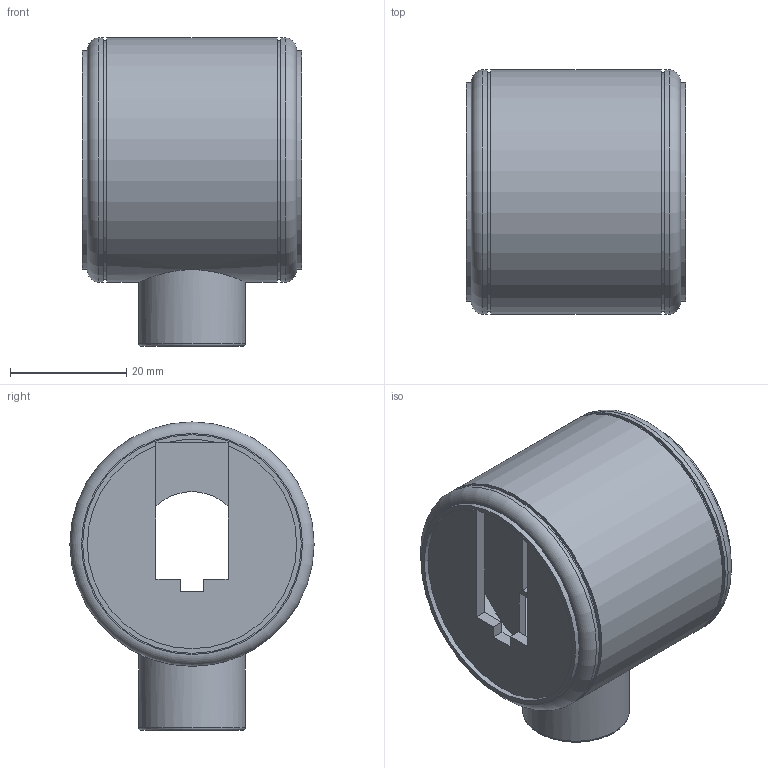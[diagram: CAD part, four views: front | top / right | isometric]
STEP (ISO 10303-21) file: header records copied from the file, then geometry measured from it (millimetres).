
FILE_DESCRIPTION(('Open CASCADE Model'),'2;1');
FILE_NAME('Open CASCADE Shape Model','2026-11-01T16:32:09',('Author'),( 'Open CASCADE'),'Open CASCADE STEP processor 8.0','build123d', 'Unknown');
FILE_SCHEMA(('AUTOMOTIVE_DESIGN { 1 0 10303 214 1 1 1 1 }'));
Length unit declared in the file: millimetre
Products named in the file (1): SOLID
Bounding box: 37.8 x 42 x 53 mm (x, y, z)
Volume: 14950.1 mm3; surface area: 16181.3 mm2
Topology: 1 solids, 1 shells, 86 faces, 215 edges, 141 vertices
Faces by surface type: plane 59, cylinder 24, torus 3
Full cylindrical faces by diameter (mm): 2.7 x2, 18.4 x1, 32 x1, 36 x1, 37.6 x2, 38 x1, 41 x2, 42 x3
Entity records: 6423 total; most frequent: CARTESIAN_POINT 2348, DIRECTION 666, ORIENTED_EDGE 430, PCURVE 430, DEFINITIONAL_REPRESENTATION 430, LINE 308, VECTOR 308, EDGE_CURVE 215
